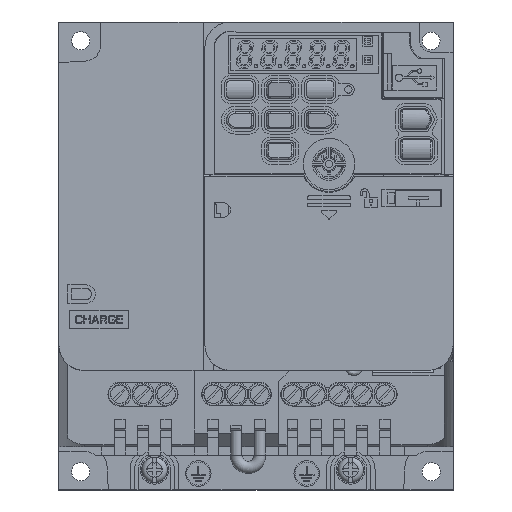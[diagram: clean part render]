
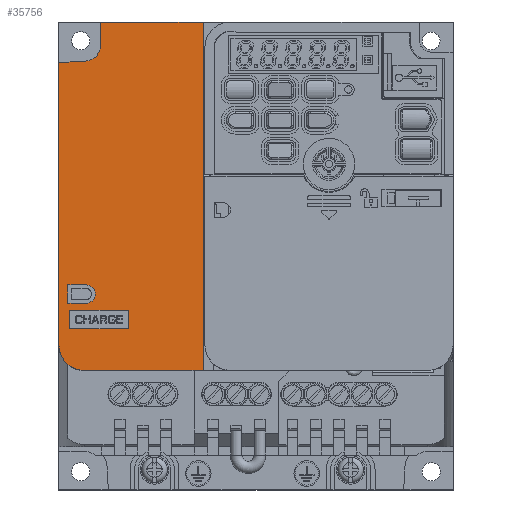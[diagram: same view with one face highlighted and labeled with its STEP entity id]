
A CAD part, top view. The second image highlights one B-rep face of the part: STEP entity #35756.
In plain terms, the highlighted planar face has unit normal (0, 0, 1).
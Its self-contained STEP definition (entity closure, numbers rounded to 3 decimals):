
#977=CARTESIAN_POINT('',(-47.,39.6,154.));
#978=DIRECTION('',(0.,0.,1.));
#979=DIRECTION('',(-1.,0.,0.));
#980=AXIS2_PLACEMENT_3D('',#977,#978,#979);
#982=DIRECTION('',(0.,-1.,0.));
#983=VECTOR('',#982,77.297);
#984=CARTESIAN_POINT('',(-54.,116.897,154.));
#985=LINE('',#984,#983);
#986=DIRECTION('',(0.999,0.052,0.));
#987=VECTOR('',#986,7.245);
#988=CARTESIAN_POINT('',(-54.,116.897,154.));
#989=LINE('',#988,#987);
#990=DIRECTION('',(0.,-1.,0.));
#991=VECTOR('',#990,6.23);
#992=CARTESIAN_POINT('',(-42.5,128.,154.));
#993=LINE('',#992,#991);
#994=DIRECTION('',(-1.,0.,0.));
#995=VECTOR('',#994,28.);
#996=CARTESIAN_POINT('',(-14.5,128.,154.));
#997=LINE('',#996,#995);
#998=DIRECTION('',(0.,1.,0.));
#999=VECTOR('',#998,95.4);
#1000=CARTESIAN_POINT('',(-14.5,32.6,154.));
#1001=LINE('',#1000,#999);
#1002=DIRECTION('',(1.,0.,0.));
#1003=VECTOR('',#1002,32.5);
#1004=CARTESIAN_POINT('',(-47.,32.6,154.));
#1005=LINE('',#1004,#1003);
#1006=DIRECTION('',(-1.,0.,0.));
#1007=VECTOR('',#1006,5.);
#1008=CARTESIAN_POINT('',(-46.5,51.,154.));
#1009=LINE('',#1008,#1007);
#1010=CARTESIAN_POINT('',(-46.5,53.5,154.));
#1011=DIRECTION('',(0.,0.,-1.));
#1012=DIRECTION('',(0.,1.,0.));
#1013=AXIS2_PLACEMENT_3D('',#1010,#1011,#1012);
#1015=DIRECTION('',(1.,0.,0.));
#1016=VECTOR('',#1015,5.);
#1017=CARTESIAN_POINT('',(-51.5,56.,154.));
#1018=LINE('',#1017,#1016);
#1019=DIRECTION('',(0.,1.,0.));
#1020=VECTOR('',#1019,5.);
#1021=CARTESIAN_POINT('',(-51.5,51.,154.));
#1022=LINE('',#1021,#1020);
#1023=DIRECTION('',(0.,-1.,0.));
#1024=VECTOR('',#1023,5.);
#1025=CARTESIAN_POINT('',(-51.,49.,154.));
#1026=LINE('',#1025,#1024);
#1027=DIRECTION('',(1.,0.,0.));
#1028=VECTOR('',#1027,16.);
#1029=CARTESIAN_POINT('',(-51.,44.,154.));
#1030=LINE('',#1029,#1028);
#1031=DIRECTION('',(0.,1.,0.));
#1032=VECTOR('',#1031,5.);
#1033=CARTESIAN_POINT('',(-35.,44.,154.));
#1034=LINE('',#1033,#1032);
#1035=DIRECTION('',(-1.,0.,0.));
#1036=VECTOR('',#1035,16.);
#1037=CARTESIAN_POINT('',(-35.,49.,154.));
#1038=LINE('',#1037,#1036);
#1048=CARTESIAN_POINT('',(-47.,121.77,154.));
#1049=DIRECTION('',(0.,0.,-1.));
#1050=DIRECTION('',(1.,0.,0.));
#1051=AXIS2_PLACEMENT_3D('',#1048,#1049,#1050);
#30130=CARTESIAN_POINT('',(-14.5,32.6,154.));
#30131=CARTESIAN_POINT('',(-14.5,128.,154.));
#30132=VERTEX_POINT('',#30130);
#30133=VERTEX_POINT('',#30131);
#30502=CARTESIAN_POINT('',(-42.5,128.,154.));
#30503=VERTEX_POINT('',#30502);
#31374=CARTESIAN_POINT('',(-51.,49.,154.));
#31375=CARTESIAN_POINT('',(-51.,44.,154.));
#31376=VERTEX_POINT('',#31374);
#31377=VERTEX_POINT('',#31375);
#31378=CARTESIAN_POINT('',(-35.,44.,154.));
#31379=VERTEX_POINT('',#31378);
#31380=CARTESIAN_POINT('',(-35.,49.,154.));
#31381=VERTEX_POINT('',#31380);
#31906=CARTESIAN_POINT('',(-54.,116.897,154.));
#31908=VERTEX_POINT('',#31906);
#31910=CARTESIAN_POINT('',(-46.764,117.277,154.));
#31912=VERTEX_POINT('',#31910);
#31914=CARTESIAN_POINT('',(-42.5,121.77,154.));
#31916=VERTEX_POINT('',#31914);
#32064=CARTESIAN_POINT('',(-46.5,51.,154.));
#32065=CARTESIAN_POINT('',(-51.5,51.,154.));
#32066=VERTEX_POINT('',#32064);
#32067=VERTEX_POINT('',#32065);
#32068=CARTESIAN_POINT('',(-51.5,56.,154.));
#32069=VERTEX_POINT('',#32068);
#32070=CARTESIAN_POINT('',(-46.5,56.,154.));
#32071=VERTEX_POINT('',#32070);
#33687=CARTESIAN_POINT('',(-54.,39.6,154.));
#33689=VERTEX_POINT('',#33687);
#33691=CARTESIAN_POINT('',(-47.,32.6,154.));
#33692=VERTEX_POINT('',#33691);
#35716=CARTESIAN_POINT('',(0.,0.,154.));
#35717=DIRECTION('',(0.,0.,1.));
#35718=DIRECTION('',(1.,0.,0.));
#35719=AXIS2_PLACEMENT_3D('',#35716,#35717,#35718);
#35720=PLANE('',#35719);
#35721=ORIENTED_EDGE('',*,*,#35696,.F.);
#35722=ORIENTED_EDGE('',*,*,#35510,.F.);
#35724=ORIENTED_EDGE('',*,*,#35723,.T.);
#35726=ORIENTED_EDGE('',*,*,#35725,.F.);
#35728=ORIENTED_EDGE('',*,*,#35727,.F.);
#35729=ORIENTED_EDGE('',*,*,#35042,.F.);
#35731=ORIENTED_EDGE('',*,*,#35730,.F.);
#35733=ORIENTED_EDGE('',*,*,#35732,.F.);
#35734=EDGE_LOOP('',(#35721,#35722,#35724,#35726,#35728,#35729,#35731,#35733));
#35735=FACE_OUTER_BOUND('',#35734,.F.);
#35737=ORIENTED_EDGE('',*,*,#35736,.F.);
#35739=ORIENTED_EDGE('',*,*,#35738,.F.);
#35741=ORIENTED_EDGE('',*,*,#35740,.F.);
#35743=ORIENTED_EDGE('',*,*,#35742,.F.);
#35744=EDGE_LOOP('',(#35737,#35739,#35741,#35743));
#35745=FACE_BOUND('',#35744,.F.);
#35747=ORIENTED_EDGE('',*,*,#35746,.T.);
#35749=ORIENTED_EDGE('',*,*,#35748,.T.);
#35751=ORIENTED_EDGE('',*,*,#35750,.T.);
#35753=ORIENTED_EDGE('',*,*,#35752,.T.);
#35754=EDGE_LOOP('',(#35747,#35749,#35751,#35753));
#35755=FACE_BOUND('',#35754,.F.);
#981=CIRCLE('',#980,7.);
#1014=CIRCLE('',#1013,2.5);
#1052=CIRCLE('',#1051,4.5);
#35042=EDGE_CURVE('',#30133,#30503,#997,.T.);
#35510=EDGE_CURVE('',#31908,#33689,#985,.T.);
#35696=EDGE_CURVE('',#33689,#33692,#981,.T.);
#35723=EDGE_CURVE('',#31908,#31912,#989,.T.);
#35725=EDGE_CURVE('',#31916,#31912,#1052,.T.);
#35727=EDGE_CURVE('',#30503,#31916,#993,.T.);
#35730=EDGE_CURVE('',#30132,#30133,#1001,.T.);
#35732=EDGE_CURVE('',#33692,#30132,#1005,.T.);
#35736=EDGE_CURVE('',#32066,#32067,#1009,.T.);
#35738=EDGE_CURVE('',#32071,#32066,#1014,.T.);
#35740=EDGE_CURVE('',#32069,#32071,#1018,.T.);
#35742=EDGE_CURVE('',#32067,#32069,#1022,.T.);
#35746=EDGE_CURVE('',#31376,#31377,#1026,.T.);
#35748=EDGE_CURVE('',#31377,#31379,#1030,.T.);
#35750=EDGE_CURVE('',#31379,#31381,#1034,.T.);
#35752=EDGE_CURVE('',#31381,#31376,#1038,.T.);
#35756=ADVANCED_FACE('',(#35735,#35745,#35755),#35720,.T.);
